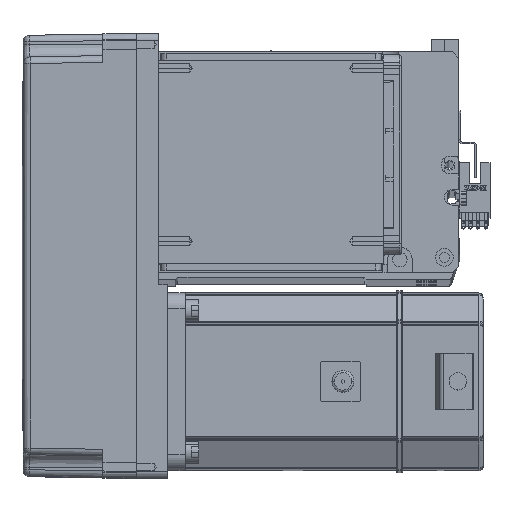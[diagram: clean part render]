
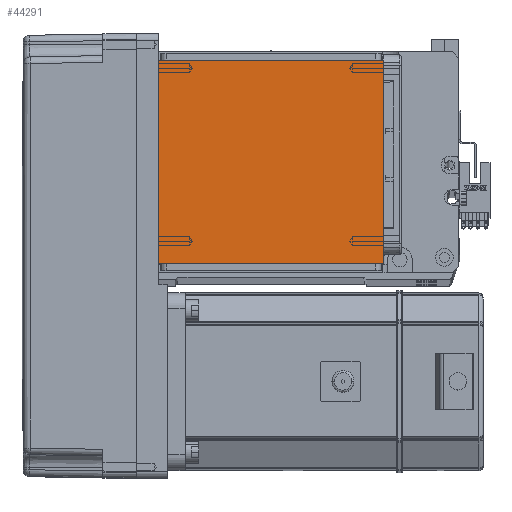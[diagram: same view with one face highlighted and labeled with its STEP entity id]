
A CAD part, top view. The second image highlights one B-rep face of the part: STEP entity #44291.
In plain terms, the highlighted planar face has unit normal (0, 0, 1).
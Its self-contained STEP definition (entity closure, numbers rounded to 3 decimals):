
#1258 = CARTESIAN_POINT ( 'NONE',  ( 50.5, 20., 115. ) ) ;
#1925 = ORIENTED_EDGE ( 'NONE', *, *, #25789, .F. ) ;
#4538 = VECTOR ( 'NONE', #53370, 1000. ) ;
#9805 = CARTESIAN_POINT ( 'NONE',  ( 50.5, 122., 115. ) ) ;
#13191 = EDGE_LOOP ( 'NONE', ( #58820, #26473, #1925, #51041 ) ) ;
#13425 = LINE ( 'NONE', #38089, #4538 ) ;
#14317 = VECTOR ( 'NONE', #58217, 1000. ) ;
#16334 = VERTEX_POINT ( 'NONE', #42003 ) ;
#17134 = VERTEX_POINT ( 'NONE', #1258 ) ;
#17300 = FACE_OUTER_BOUND ( 'NONE', #13191, .T. ) ;
#17673 = DIRECTION ( 'NONE',  ( 1., 0., 0. ) ) ;
#19363 = VECTOR ( 'NONE', #26865, 1000. ) ;
#22648 = CARTESIAN_POINT ( 'NONE',  ( 0., 0., 115. ) ) ;
#25789 = EDGE_CURVE ( 'NONE', #17134, #44456, #13425, .T. ) ;
#25894 = EDGE_CURVE ( 'NONE', #50278, #44456, #30446, .T. ) ;
#26268 = AXIS2_PLACEMENT_3D ( 'NONE', #22648, #55689, #17673 ) ;
#26473 = ORIENTED_EDGE ( 'NONE', *, *, #25894, .T. ) ;
#26865 = DIRECTION ( 'NONE',  ( 0., -1., 0. ) ) ;
#27007 = LINE ( 'NONE', #9805, #46207 ) ;
#29765 = CARTESIAN_POINT ( 'NONE',  ( -70.004, 111.5, 115. ) ) ;
#30446 = LINE ( 'NONE', #31989, #19363 ) ;
#31989 = CARTESIAN_POINT ( 'NONE',  ( -50.5, 122., 115. ) ) ;
#35729 = EDGE_CURVE ( 'NONE', #17134, #16334, #27007, .T. ) ;
#38089 = CARTESIAN_POINT ( 'NONE',  ( -70.004, 20., 115. ) ) ;
#41744 = LINE ( 'NONE', #29765, #14317 ) ;
#42003 = CARTESIAN_POINT ( 'NONE',  ( 50.5, 111.5, 115. ) ) ;
#43092 = DIRECTION ( 'NONE',  ( 0., 1., 0. ) ) ;
#44291 = ADVANCED_FACE ( 'NONE', ( #17300 ), #60206, .T. ) ;
#44456 = VERTEX_POINT ( 'NONE', #48233 ) ;
#46207 = VECTOR ( 'NONE', #43092, 1000. ) ;
#48233 = CARTESIAN_POINT ( 'NONE',  ( -50.5, 20., 115. ) ) ;
#50278 = VERTEX_POINT ( 'NONE', #57951 ) ;
#51041 = ORIENTED_EDGE ( 'NONE', *, *, #35729, .T. ) ;
#53370 = DIRECTION ( 'NONE',  ( -1., 0., 0. ) ) ;
#54486 = EDGE_CURVE ( 'NONE', #50278, #16334, #41744, .T. ) ;
#55689 = DIRECTION ( 'NONE',  ( 0., 0., 1. ) ) ;
#57951 = CARTESIAN_POINT ( 'NONE',  ( -50.5, 111.5, 115. ) ) ;
#58217 = DIRECTION ( 'NONE',  ( 1., 0., 0. ) ) ;
#58820 = ORIENTED_EDGE ( 'NONE', *, *, #54486, .F. ) ;
#60206 = PLANE ( 'NONE',  #26268 ) ;
